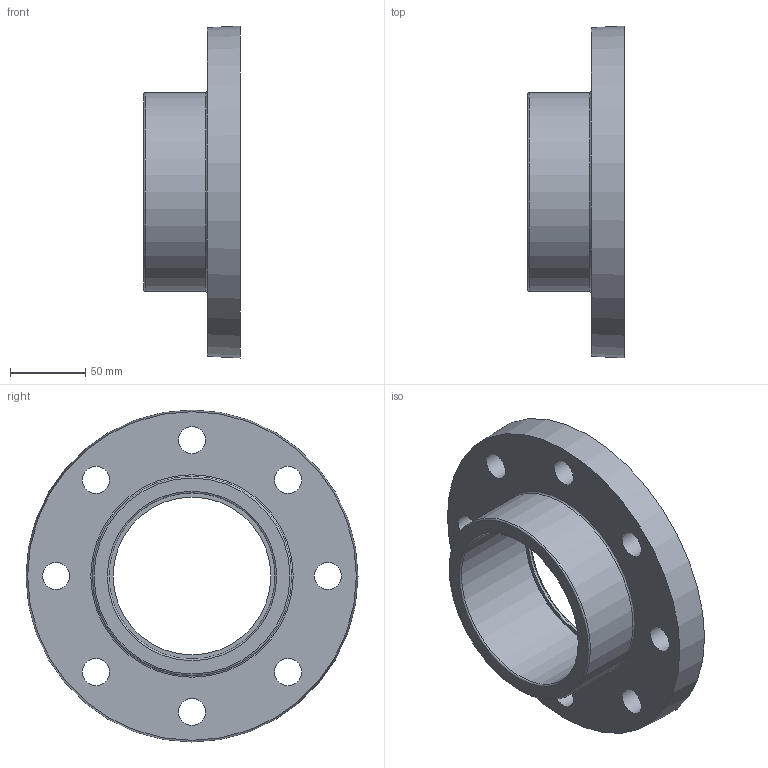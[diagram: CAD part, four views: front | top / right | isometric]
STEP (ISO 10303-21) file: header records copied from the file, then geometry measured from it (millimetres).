
FILE_DESCRIPTION(/* description */ ('PLASSON FIXED FLANGE-CEM PVC 110'),/* implementation_level */ '2;1');
FILE_NAME(/* name */ 'C:\Dropbox\KIMPROJECTS-Inventor\99-16-3568-Processing\PVC Catalog 2017\26_09_18\059200\059200110.ipt.stp',/* time_stamp */ '2018-09-27T11:51:39+03:00',/* author */ ('KIM'),/* organization */ (''),/* preprocessor_version */ 'ST-DEVELOPER v15.6',/* originating_system */ 'Autodesk Inventor 2015',/* authorisation */ '');
FILE_SCHEMA (('AUTOMOTIVE_DESIGN { 1 0 10303 214 3 1 1 }'));
Length unit declared in the file: millimetre
Products named in the file (1): 059200110
Bounding box: 64 x 220 x 220 mm (x, y, z)
Volume: 751801.6 mm3; surface area: 118868 mm2
Topology: 1 solids, 1 shells, 32 faces, 62 edges, 40 vertices
Faces by surface type: cylinder 17, plane 10, torus 4, cone 1
Full cylindrical faces by diameter (mm): 18 x8, 104.5 x1, 108.9 x1, 110 x1, 111.1 x1, 113.3 x1, 115.5 x1, 117.7 x1, 119.9 x1, 132 x1
Entity records: 784 total; most frequent: DIRECTION 146, CARTESIAN_POINT 113, EDGE_LOOP 80, ORIENTED_EDGE 80, AXIS2_PLACEMENT_3D 73, FACE_BOUND 48, CIRCLE 40, VERTEX_POINT 40
